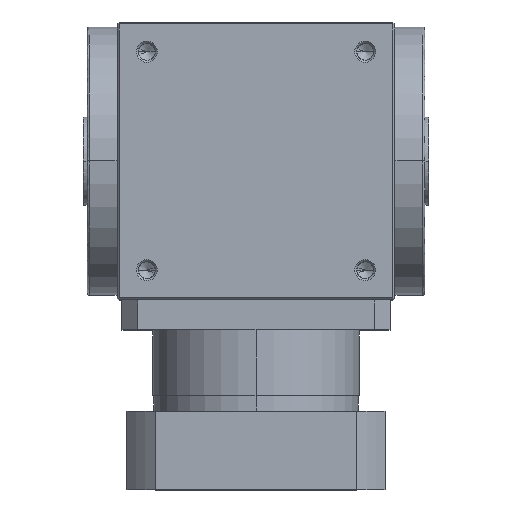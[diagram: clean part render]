
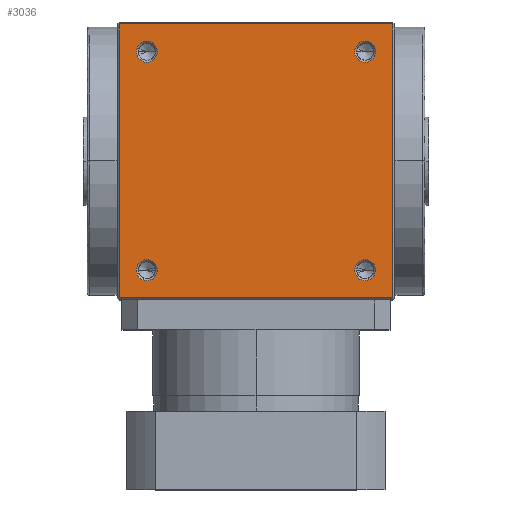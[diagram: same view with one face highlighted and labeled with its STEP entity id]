
A CAD part, top view. The second image highlights one B-rep face of the part: STEP entity #3036.
In plain terms, the highlighted planar face has unit normal (0, 0, 1).
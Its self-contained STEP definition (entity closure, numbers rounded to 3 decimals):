
#21 = DIRECTION ( 'NONE',  ( 0., 0., 1. ) ) ;
#45 = EDGE_CURVE ( 'NONE', #5724, #280, #4281, .T. ) ;
#243 = VERTEX_POINT ( 'NONE', #5870 ) ;
#280 = VERTEX_POINT ( 'NONE', #5145 ) ;
#541 = CARTESIAN_POINT ( 'NONE',  ( -69., -69., 70. ) ) ;
#587 = CARTESIAN_POINT ( 'NONE',  ( -69., -69., 70. ) ) ;
#824 = CIRCLE ( 'NONE', #7905, 5.25 ) ;
#1184 = CIRCLE ( 'NONE', #3820, 5.25 ) ;
#1222 = VERTEX_POINT ( 'NONE', #2744 ) ;
#1253 = DIRECTION ( 'NONE',  ( 0., 1., 0. ) ) ;
#1343 = ORIENTED_EDGE ( 'NONE', *, *, #3743, .F. ) ;
#1365 = DIRECTION ( 'NONE',  ( 0., 0., -1. ) ) ;
#1403 = CARTESIAN_POINT ( 'NONE',  ( 69., -69., 70. ) ) ;
#1568 = VECTOR ( 'NONE', #4645, 1000. ) ;
#1582 = EDGE_CURVE ( 'NONE', #243, #3861, #5489, .T. ) ;
#1703 = LINE ( 'NONE', #541, #6473 ) ;
#2119 = VECTOR ( 'NONE', #9464, 1000. ) ;
#2382 = EDGE_CURVE ( 'NONE', #3718, #9739, #2577, .T. ) ;
#2404 = LINE ( 'NONE', #8632, #2119 ) ;
#2577 = CIRCLE ( 'NONE', #3746, 5.25 ) ;
#2660 = ORIENTED_EDGE ( 'NONE', *, *, #7755, .T. ) ;
#2678 = LINE ( 'NONE', #10780, #9650 ) ;
#2744 = CARTESIAN_POINT ( 'NONE',  ( 49.75, 55., 70. ) ) ;
#3025 = DIRECTION ( 'NONE',  ( 1., 0., 0. ) ) ;
#3036 = ADVANCED_FACE ( 'NONE', ( #3094, #5604, #4226, #6858, #6718 ), #10867, .F. ) ;
#3094 = FACE_OUTER_BOUND ( 'NONE', #4433, .T. ) ;
#3126 = AXIS2_PLACEMENT_3D ( 'NONE', #3241, #9361, #4153 ) ;
#3139 = EDGE_CURVE ( 'NONE', #5834, #9550, #7936, .T. ) ;
#3150 = ORIENTED_EDGE ( 'NONE', *, *, #10545, .F. ) ;
#3190 = DIRECTION ( 'NONE',  ( 0., 0., 1. ) ) ;
#3217 = DIRECTION ( 'NONE',  ( 0., 0., 1. ) ) ;
#3231 = DIRECTION ( 'NONE',  ( 0., 0., 1. ) ) ;
#3241 = CARTESIAN_POINT ( 'NONE',  ( 55., 55., 70. ) ) ;
#3269 = CARTESIAN_POINT ( 'NONE',  ( -55., 55., 70. ) ) ;
#3366 = EDGE_LOOP ( 'NONE', ( #9639, #10059 ) ) ;
#3374 = CARTESIAN_POINT ( 'NONE',  ( -49.75, -55., 70. ) ) ;
#3477 = CARTESIAN_POINT ( 'NONE',  ( -60.25, -55., 70. ) ) ;
#3649 = VERTEX_POINT ( 'NONE', #5240 ) ;
#3718 = VERTEX_POINT ( 'NONE', #3477 ) ;
#3743 = EDGE_CURVE ( 'NONE', #9550, #5834, #5589, .T. ) ;
#3746 = AXIS2_PLACEMENT_3D ( 'NONE', #10523, #3217, #6795 ) ;
#3820 = AXIS2_PLACEMENT_3D ( 'NONE', #8496, #3190, #9314 ) ;
#3861 = VERTEX_POINT ( 'NONE', #587 ) ;
#3873 = CARTESIAN_POINT ( 'NONE',  ( 55., -55., 70. ) ) ;
#3924 = AXIS2_PLACEMENT_3D ( 'NONE', #1403, #1365, #8447 ) ;
#4153 = DIRECTION ( 'NONE',  ( 1., 0., 0. ) ) ;
#4179 = DIRECTION ( 'NONE',  ( 1., 0., 0. ) ) ;
#4226 = FACE_BOUND ( 'NONE', #5316, .T. ) ;
#4243 = DIRECTION ( 'NONE',  ( 0., 0., 1. ) ) ;
#4279 = CARTESIAN_POINT ( 'NONE',  ( -55., 55., 70. ) ) ;
#4281 = CIRCLE ( 'NONE', #7983, 5.25 ) ;
#4433 = EDGE_LOOP ( 'NONE', ( #8195, #2660, #6457, #10668 ) ) ;
#4645 = DIRECTION ( 'NONE',  ( 0., -1., 0. ) ) ;
#4658 = CARTESIAN_POINT ( 'NONE',  ( -69., 69., 70. ) ) ;
#4737 = ORIENTED_EDGE ( 'NONE', *, *, #7092, .F. ) ;
#4803 = DIRECTION ( 'NONE',  ( 1., 0., 0. ) ) ;
#5145 = CARTESIAN_POINT ( 'NONE',  ( 49.75, -55., 70. ) ) ;
#5164 = VERTEX_POINT ( 'NONE', #10783 ) ;
#5240 = CARTESIAN_POINT ( 'NONE',  ( 60.25, 55., 70. ) ) ;
#5316 = EDGE_LOOP ( 'NONE', ( #4737, #6110 ) ) ;
#5378 = CARTESIAN_POINT ( 'NONE',  ( 55., 55., 70. ) ) ;
#5489 = LINE ( 'NONE', #4658, #1568 ) ;
#5589 = CIRCLE ( 'NONE', #8399, 5.25 ) ;
#5604 = FACE_BOUND ( 'NONE', #3366, .T. ) ;
#5724 = VERTEX_POINT ( 'NONE', #10674 ) ;
#5784 = ORIENTED_EDGE ( 'NONE', *, *, #6743, .F. ) ;
#5834 = VERTEX_POINT ( 'NONE', #7557 ) ;
#5870 = CARTESIAN_POINT ( 'NONE',  ( -69., 69., 70. ) ) ;
#6110 = ORIENTED_EDGE ( 'NONE', *, *, #2382, .F. ) ;
#6278 = DIRECTION ( 'NONE',  ( 1., 0., 0. ) ) ;
#6457 = ORIENTED_EDGE ( 'NONE', *, *, #1582, .T. ) ;
#6473 = VECTOR ( 'NONE', #7643, 1000. ) ;
#6714 = CARTESIAN_POINT ( 'NONE',  ( -60.25, 55., 70. ) ) ;
#6718 = FACE_BOUND ( 'NONE', #7608, .T. ) ;
#6743 = EDGE_CURVE ( 'NONE', #3649, #1222, #7627, .T. ) ;
#6795 = DIRECTION ( 'NONE',  ( 1., 0., 0. ) ) ;
#6858 = FACE_BOUND ( 'NONE', #9144, .T. ) ;
#7086 = AXIS2_PLACEMENT_3D ( 'NONE', #4279, #4243, #4179 ) ;
#7092 = EDGE_CURVE ( 'NONE', #9739, #3718, #1184, .T. ) ;
#7245 = DIRECTION ( 'NONE',  ( 0., 0., 1. ) ) ;
#7308 = CARTESIAN_POINT ( 'NONE',  ( 55., -55., 70. ) ) ;
#7405 = ORIENTED_EDGE ( 'NONE', *, *, #3139, .F. ) ;
#7557 = CARTESIAN_POINT ( 'NONE',  ( -49.75, 55., 70. ) ) ;
#7605 = EDGE_CURVE ( 'NONE', #10625, #5164, #2678, .T. ) ;
#7608 = EDGE_LOOP ( 'NONE', ( #7405, #1343 ) ) ;
#7627 = CIRCLE ( 'NONE', #3126, 5.25 ) ;
#7643 = DIRECTION ( 'NONE',  ( 1., 0., 0. ) ) ;
#7755 = EDGE_CURVE ( 'NONE', #5164, #243, #2404, .T. ) ;
#7905 = AXIS2_PLACEMENT_3D ( 'NONE', #3873, #9938, #4803 ) ;
#7936 = CIRCLE ( 'NONE', #7086, 5.25 ) ;
#7983 = AXIS2_PLACEMENT_3D ( 'NONE', #7308, #7245, #8997 ) ;
#8195 = ORIENTED_EDGE ( 'NONE', *, *, #7605, .T. ) ;
#8257 = EDGE_CURVE ( 'NONE', #3861, #10625, #1703, .T. ) ;
#8399 = AXIS2_PLACEMENT_3D ( 'NONE', #3269, #3231, #3025 ) ;
#8447 = DIRECTION ( 'NONE',  ( -1., 0., 0. ) ) ;
#8496 = CARTESIAN_POINT ( 'NONE',  ( -55., -55., 70. ) ) ;
#8548 = EDGE_CURVE ( 'NONE', #280, #5724, #824, .T. ) ;
#8632 = CARTESIAN_POINT ( 'NONE',  ( 69., 69., 70. ) ) ;
#8997 = DIRECTION ( 'NONE',  ( 1., 0., 0. ) ) ;
#9021 = CIRCLE ( 'NONE', #10577, 5.25 ) ;
#9144 = EDGE_LOOP ( 'NONE', ( #5784, #3150 ) ) ;
#9314 = DIRECTION ( 'NONE',  ( 1., 0., 0. ) ) ;
#9361 = DIRECTION ( 'NONE',  ( 0., 0., 1. ) ) ;
#9464 = DIRECTION ( 'NONE',  ( -1., 0., 0. ) ) ;
#9550 = VERTEX_POINT ( 'NONE', #6714 ) ;
#9639 = ORIENTED_EDGE ( 'NONE', *, *, #45, .F. ) ;
#9650 = VECTOR ( 'NONE', #1253, 1000. ) ;
#9739 = VERTEX_POINT ( 'NONE', #3374 ) ;
#9938 = DIRECTION ( 'NONE',  ( 0., 0., 1. ) ) ;
#10059 = ORIENTED_EDGE ( 'NONE', *, *, #8548, .F. ) ;
#10523 = CARTESIAN_POINT ( 'NONE',  ( -55., -55., 70. ) ) ;
#10545 = EDGE_CURVE ( 'NONE', #1222, #3649, #9021, .T. ) ;
#10577 = AXIS2_PLACEMENT_3D ( 'NONE', #5378, #21, #6278 ) ;
#10579 = CARTESIAN_POINT ( 'NONE',  ( 69., -69., 70. ) ) ;
#10625 = VERTEX_POINT ( 'NONE', #10579 ) ;
#10668 = ORIENTED_EDGE ( 'NONE', *, *, #8257, .T. ) ;
#10674 = CARTESIAN_POINT ( 'NONE',  ( 60.25, -55., 70. ) ) ;
#10780 = CARTESIAN_POINT ( 'NONE',  ( 69., -69., 70. ) ) ;
#10783 = CARTESIAN_POINT ( 'NONE',  ( 69., 69., 70. ) ) ;
#10867 = PLANE ( 'NONE',  #3924 ) ;
